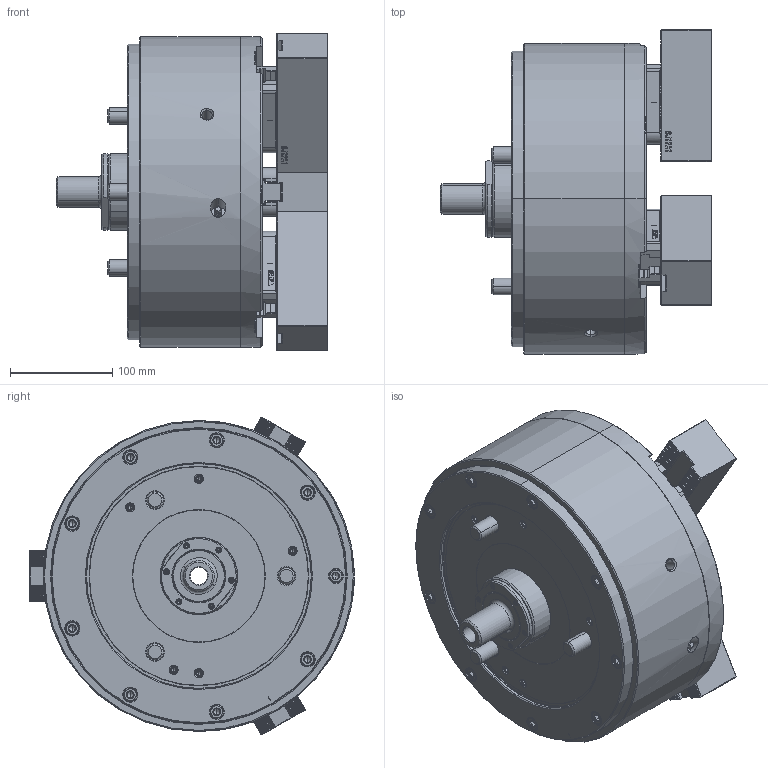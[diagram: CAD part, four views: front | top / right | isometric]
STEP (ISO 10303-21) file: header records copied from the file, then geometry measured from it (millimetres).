
FILE_DESCRIPTION (( 'STEP AP214' ), '1' );
FILE_NAME ('DL212_OC_ID.STEP', '2022-09-08T05:02:21', ( '' ), ( '' ), 'SwSTEP 2.0', 'SolidWorks 2020', '' );
FILE_SCHEMA (( 'AUTOMOTIVE_DESIGN' ));
Length unit declared in the file: millimetre
Products named in the file (5): 61P458879; 結合DLD212_OC_ID^DL212; DL212_OC_ID; 0030114040; 61P851659
Assembly tree (13 placements, depth 2):
  DL212_OC_ID
    61P851659  x3
    61P458879  x3
    0030114040  x6
    結合DLD212_OC_ID^DL212
Bounding box: 265.3 x 317.4 x 310.88 mm (x, y, z)
Volume: 10130613 mm3; surface area: 601638.5 mm2
Topology: 13 solids, 60 shells, 6734 faces, 18528 edges, 12047 vertices
Faces by surface type: plane 4397, cylinder 888, cone 764, bspline 663, torus 22
Entity records: 186946 total; most frequent: CARTESIAN_POINT 61454, ORIENTED_EDGE 28192, DIRECTION 22438, EDGE_CURVE 14096, LINE 9762, VECTOR 9762, VERTEX_POINT 9236, AXIS2_PLACEMENT_3D 6338
